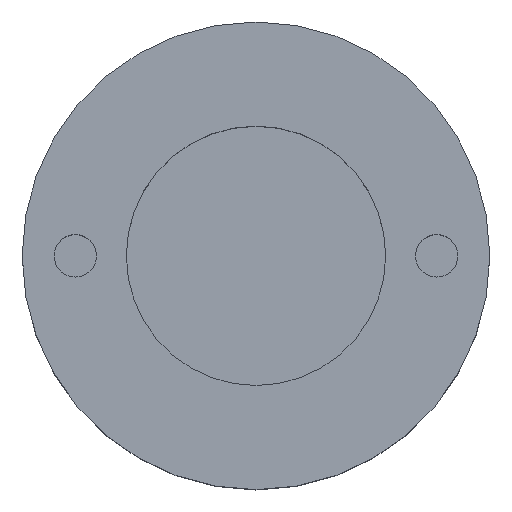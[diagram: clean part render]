
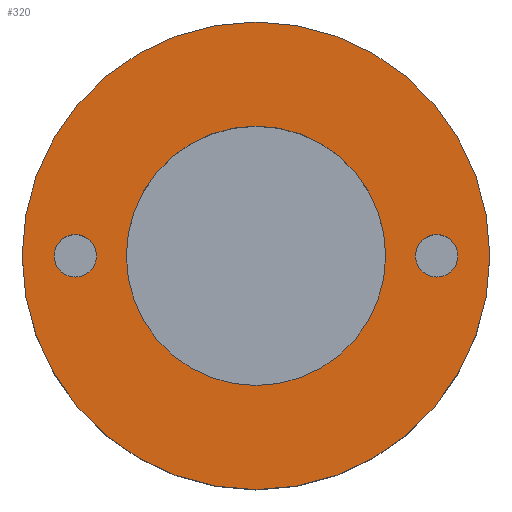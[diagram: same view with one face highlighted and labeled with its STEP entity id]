
A CAD part, top view. The second image highlights one B-rep face of the part: STEP entity #320.
In plain terms, the highlighted planar face has unit normal (0, 0, 1).
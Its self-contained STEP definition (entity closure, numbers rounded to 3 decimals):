
#161 = CYLINDRICAL_SURFACE('',#162,5.5);
#162 = AXIS2_PLACEMENT_3D('',#163,#164,#165);
#163 = CARTESIAN_POINT('',(0.,0.,14.8));
#164 = DIRECTION('',(0.,0.,1.));
#165 = DIRECTION('',(1.,0.,-0.));
#234 = EDGE_CURVE('',#235,#235,#237,.T.);
#235 = VERTEX_POINT('',#236);
#236 = CARTESIAN_POINT('',(5.5,0.,19.3));
#237 = SURFACE_CURVE('',#238,(#243,#250),.PCURVE_S1.);
#238 = CIRCLE('',#239,5.5);
#239 = AXIS2_PLACEMENT_3D('',#240,#241,#242);
#240 = CARTESIAN_POINT('',(0.,0.,19.3));
#241 = DIRECTION('',(0.,0.,1.));
#242 = DIRECTION('',(1.,0.,-0.));
#243 = PCURVE('',#161,#244);
#244 = DEFINITIONAL_REPRESENTATION('',(#245),#249);
#245 = LINE('',#246,#247);
#246 = CARTESIAN_POINT('',(0.,4.5));
#247 = VECTOR('',#248,1.);
#248 = DIRECTION('',(1.,0.));
#249 = ( GEOMETRIC_REPRESENTATION_CONTEXT(2) 
PARAMETRIC_REPRESENTATION_CONTEXT() REPRESENTATION_CONTEXT('2D SPACE',''
  ) );
#250 = PCURVE('',#251,#256);
#251 = PLANE('',#252);
#252 = AXIS2_PLACEMENT_3D('',#253,#254,#255);
#253 = CARTESIAN_POINT('',(0.,0.,19.3));
#254 = DIRECTION('',(0.,0.,1.));
#255 = DIRECTION('',(1.,0.,-0.));
#256 = DEFINITIONAL_REPRESENTATION('',(#257),#261);
#257 = CIRCLE('',#258,5.5);
#258 = AXIS2_PLACEMENT_2D('',#259,#260);
#259 = CARTESIAN_POINT('',(0.,0.));
#260 = DIRECTION('',(1.,0.));
#261 = ( GEOMETRIC_REPRESENTATION_CONTEXT(2) 
PARAMETRIC_REPRESENTATION_CONTEXT() REPRESENTATION_CONTEXT('2D SPACE',''
  ) );
#320 = ADVANCED_FACE('',(#321,#324,#355,#386),#251,.T.);
#321 = FACE_BOUND('',#322,.T.);
#322 = EDGE_LOOP('',(#323));
#323 = ORIENTED_EDGE('',*,*,#234,.T.);
#324 = FACE_BOUND('',#325,.T.);
#325 = EDGE_LOOP('',(#326));
#326 = ORIENTED_EDGE('',*,*,#327,.F.);
#327 = EDGE_CURVE('',#328,#328,#330,.T.);
#328 = VERTEX_POINT('',#329);
#329 = CARTESIAN_POINT('',(-3.75,0.,19.3));
#330 = SURFACE_CURVE('',#331,(#336,#343),.PCURVE_S1.);
#331 = CIRCLE('',#332,0.5);
#332 = AXIS2_PLACEMENT_3D('',#333,#334,#335);
#333 = CARTESIAN_POINT('',(-4.25,0.,19.3));
#334 = DIRECTION('',(0.,0.,1.));
#335 = DIRECTION('',(1.,0.,-0.));
#336 = PCURVE('',#251,#337);
#337 = DEFINITIONAL_REPRESENTATION('',(#338),#342);
#338 = CIRCLE('',#339,0.5);
#339 = AXIS2_PLACEMENT_2D('',#340,#341);
#340 = CARTESIAN_POINT('',(-4.25,0.));
#341 = DIRECTION('',(1.,0.));
#342 = ( GEOMETRIC_REPRESENTATION_CONTEXT(2) 
PARAMETRIC_REPRESENTATION_CONTEXT() REPRESENTATION_CONTEXT('2D SPACE',''
  ) );
#343 = PCURVE('',#344,#349);
#344 = CYLINDRICAL_SURFACE('',#345,0.5);
#345 = AXIS2_PLACEMENT_3D('',#346,#347,#348);
#346 = CARTESIAN_POINT('',(-4.25,0.,17.3));
#347 = DIRECTION('',(0.,0.,1.));
#348 = DIRECTION('',(1.,0.,-0.));
#349 = DEFINITIONAL_REPRESENTATION('',(#350),#354);
#350 = LINE('',#351,#352);
#351 = CARTESIAN_POINT('',(0.,2.));
#352 = VECTOR('',#353,1.);
#353 = DIRECTION('',(1.,0.));
#354 = ( GEOMETRIC_REPRESENTATION_CONTEXT(2) 
PARAMETRIC_REPRESENTATION_CONTEXT() REPRESENTATION_CONTEXT('2D SPACE',''
  ) );
#355 = FACE_BOUND('',#356,.T.);
#356 = EDGE_LOOP('',(#357));
#357 = ORIENTED_EDGE('',*,*,#358,.F.);
#358 = EDGE_CURVE('',#359,#359,#361,.T.);
#359 = VERTEX_POINT('',#360);
#360 = CARTESIAN_POINT('',(3.05,0.,19.3));
#361 = SURFACE_CURVE('',#362,(#367,#374),.PCURVE_S1.);
#362 = CIRCLE('',#363,3.05);
#363 = AXIS2_PLACEMENT_3D('',#364,#365,#366);
#364 = CARTESIAN_POINT('',(0.,0.,19.3));
#365 = DIRECTION('',(0.,0.,1.));
#366 = DIRECTION('',(1.,0.,-0.));
#367 = PCURVE('',#251,#368);
#368 = DEFINITIONAL_REPRESENTATION('',(#369),#373);
#369 = CIRCLE('',#370,3.05);
#370 = AXIS2_PLACEMENT_2D('',#371,#372);
#371 = CARTESIAN_POINT('',(0.,0.));
#372 = DIRECTION('',(1.,0.));
#373 = ( GEOMETRIC_REPRESENTATION_CONTEXT(2) 
PARAMETRIC_REPRESENTATION_CONTEXT() REPRESENTATION_CONTEXT('2D SPACE',''
  ) );
#374 = PCURVE('',#375,#380);
#375 = CYLINDRICAL_SURFACE('',#376,3.05);
#376 = AXIS2_PLACEMENT_3D('',#377,#378,#379);
#377 = CARTESIAN_POINT('',(0.,0.,16.8));
#378 = DIRECTION('',(0.,0.,1.));
#379 = DIRECTION('',(1.,0.,-0.));
#380 = DEFINITIONAL_REPRESENTATION('',(#381),#385);
#381 = LINE('',#382,#383);
#382 = CARTESIAN_POINT('',(0.,2.5));
#383 = VECTOR('',#384,1.);
#384 = DIRECTION('',(1.,0.));
#385 = ( GEOMETRIC_REPRESENTATION_CONTEXT(2) 
PARAMETRIC_REPRESENTATION_CONTEXT() REPRESENTATION_CONTEXT('2D SPACE',''
  ) );
#386 = FACE_BOUND('',#387,.T.);
#387 = EDGE_LOOP('',(#388));
#388 = ORIENTED_EDGE('',*,*,#389,.F.);
#389 = EDGE_CURVE('',#390,#390,#392,.T.);
#390 = VERTEX_POINT('',#391);
#391 = CARTESIAN_POINT('',(4.75,0.,19.3));
#392 = SURFACE_CURVE('',#393,(#398,#405),.PCURVE_S1.);
#393 = CIRCLE('',#394,0.5);
#394 = AXIS2_PLACEMENT_3D('',#395,#396,#397);
#395 = CARTESIAN_POINT('',(4.25,0.,19.3));
#396 = DIRECTION('',(0.,0.,1.));
#397 = DIRECTION('',(1.,0.,-0.));
#398 = PCURVE('',#251,#399);
#399 = DEFINITIONAL_REPRESENTATION('',(#400),#404);
#400 = CIRCLE('',#401,0.5);
#401 = AXIS2_PLACEMENT_2D('',#402,#403);
#402 = CARTESIAN_POINT('',(4.25,0.));
#403 = DIRECTION('',(1.,0.));
#404 = ( GEOMETRIC_REPRESENTATION_CONTEXT(2) 
PARAMETRIC_REPRESENTATION_CONTEXT() REPRESENTATION_CONTEXT('2D SPACE',''
  ) );
#405 = PCURVE('',#406,#411);
#406 = CYLINDRICAL_SURFACE('',#407,0.5);
#407 = AXIS2_PLACEMENT_3D('',#408,#409,#410);
#408 = CARTESIAN_POINT('',(4.25,0.,17.3));
#409 = DIRECTION('',(0.,0.,1.));
#410 = DIRECTION('',(1.,0.,-0.));
#411 = DEFINITIONAL_REPRESENTATION('',(#412),#416);
#412 = LINE('',#413,#414);
#413 = CARTESIAN_POINT('',(0.,2.));
#414 = VECTOR('',#415,1.);
#415 = DIRECTION('',(1.,0.));
#416 = ( GEOMETRIC_REPRESENTATION_CONTEXT(2) 
PARAMETRIC_REPRESENTATION_CONTEXT() REPRESENTATION_CONTEXT('2D SPACE',''
  ) );
